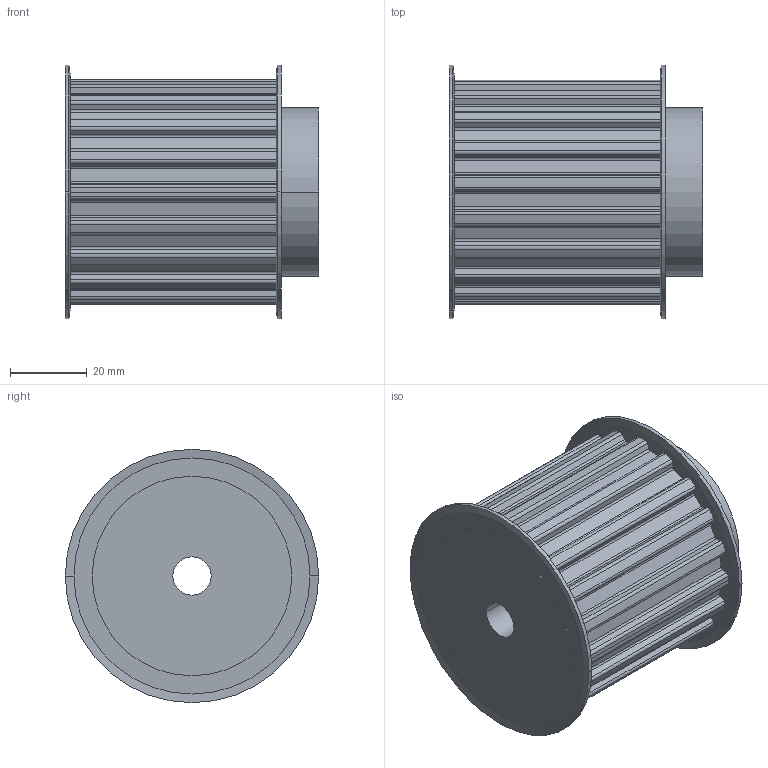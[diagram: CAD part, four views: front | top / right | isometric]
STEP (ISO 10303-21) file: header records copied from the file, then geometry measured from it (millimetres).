
FILE_DESCRIPTION( ( '' ), '1' );
FILE_NAME( 'C:/Users/Stangenbergd/Documents/CAD_Step/1/16451900.stp', '2021-10-19T09:01:09', ( '' ), ( '' ), ' ', ' ', ' ' );
FILE_SCHEMA( ( 'CONFIG_CONTROL_DESIGN' ) );
Length unit declared in the file: millimetre
Products named in the file (1): 1
Bounding box: 66.17 x 66 x 66 mm (x, y, z)
Volume: 148904 mm3; surface area: 25329.7 mm2
Topology: 1 solids, 1 shells, 180 faces, 511 edges, 338 vertices
Faces by surface type: cylinder 108, plane 64, cone 8
Entity records: 5983 total; most frequent: DIRECTION 1097, CARTESIAN_POINT 1030, ORIENTED_EDGE 1022, EDGE_CURVE 511, AXIS2_PLACEMENT_3D 405, VERTEX_POINT 338, LINE 287, VECTOR 287
